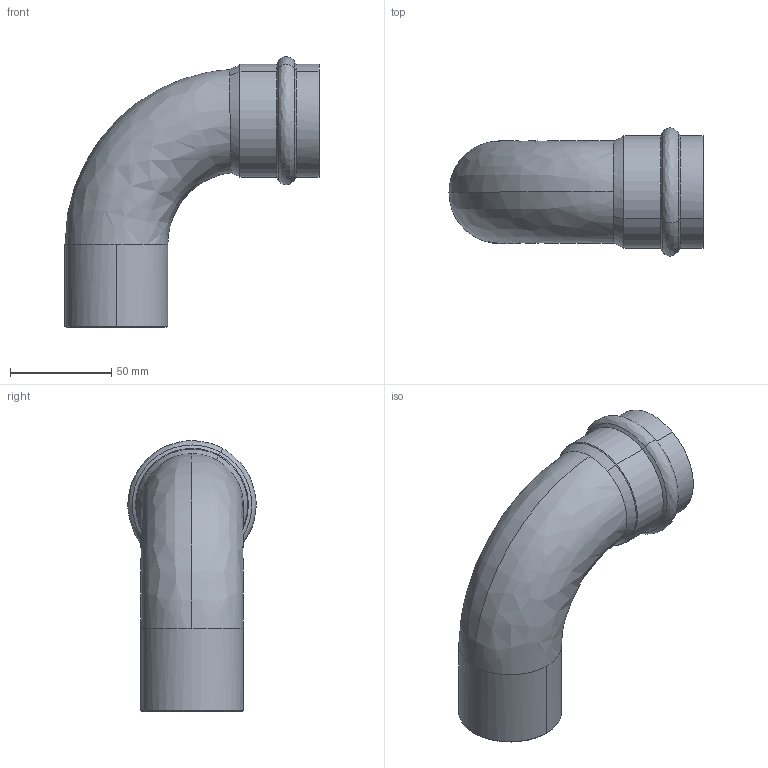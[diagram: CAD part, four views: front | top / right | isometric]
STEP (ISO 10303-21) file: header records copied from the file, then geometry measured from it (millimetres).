
FILE_DESCRIPTION(('STEP AP214'),'1');
FILE_NAME('pim0004439.stp','2015-04-30T05:27:00',('Cad-Pim'),('TransMagic, Inc.'),'TMR11sp0','TransMagic R11',' ');
FILE_SCHEMA(('AUTOMOTIVE_DESIGN'));
Length unit declared in the file: millimetre
Products named in the file (1): pim0004439
Bounding box: 125.38 x 63.32 x 133.66 mm (x, y, z)
Volume: 298657.4 mm3; surface area: 40207.4 mm2
Topology: 1 solids, 1 shells, 25 faces, 65 edges, 43 vertices
Faces by surface type: bspline 11, cylinder 8, cone 6
Entity records: 1365 total; most frequent: CARTESIAN_POINT 633, ORIENTED_EDGE 130, DIRECTION 82, EDGE_CURVE 65, VERTEX_POINT 43, AXIS2_PLACEMENT_3D 32, STYLED_ITEM 26, PRESENTATION_STYLE_ASSIGNMENT 26
